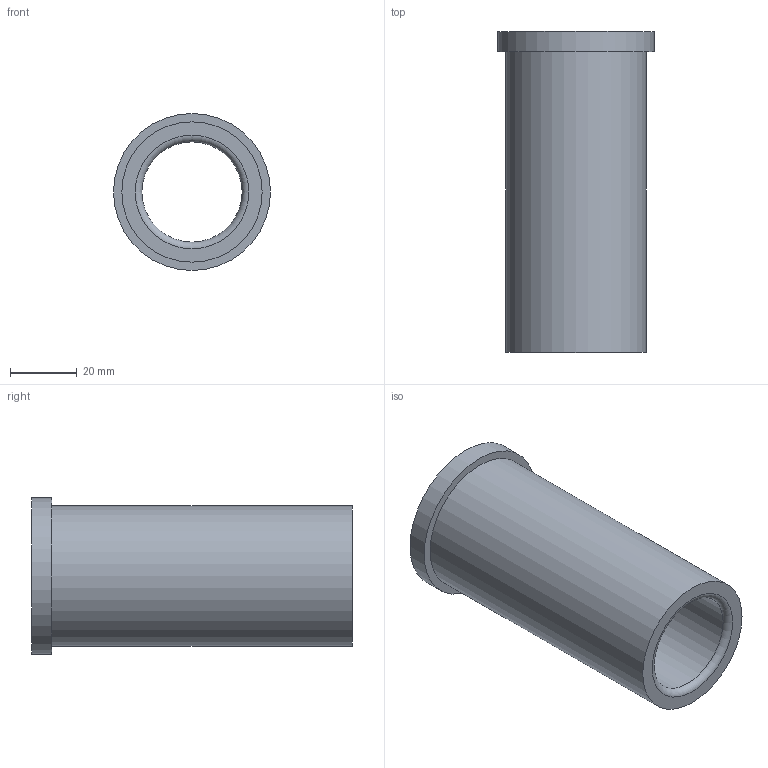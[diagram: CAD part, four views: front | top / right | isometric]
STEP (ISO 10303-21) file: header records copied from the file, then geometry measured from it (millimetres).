
FILE_DESCRIPTION(/* description */ ('STEP AP214'),/* implementation_level */ '2;1');
FILE_NAME(/* name */ '03_12_17944',/* time_stamp */ '2023-06-15T11:35:39+02:00',/* author */ ('License CC BY-ND 4.0'),/* organization */ ('CADENAS'),/* preprocessor_version */ 'ST-DEVELOPER v19.3',/* originating_system */ 'PARTsolutions',/* authorisation */ ' ');
FILE_SCHEMA (('AUTOMOTIVE_DESIGN {1 0 10303 214 3 1 1}'));
Length unit declared in the file: millimetre
Products named in the file (1): VA_Bushing_17944
Bounding box: 47 x 96 x 47 mm (x, y, z)
Volume: 66524.5 mm3; surface area: 23741.4 mm2
Topology: 1 solids, 1 shells, 10 faces, 16 edges, 10 vertices
Faces by surface type: cylinder 4, plane 4, torus 2
Full cylindrical faces by diameter (mm): 30 x1, 30.6 x1, 42 x1, 47 x1
Entity records: 302 total; most frequent: DIRECTION 42, CARTESIAN_POINT 31, AXIS2_PLACEMENT_3D 21, ORIENTED_EDGE 20, EDGE_LOOP 20, FACE_BOUND 20, EDGE_CURVE 10, VERTEX_POINT 10
